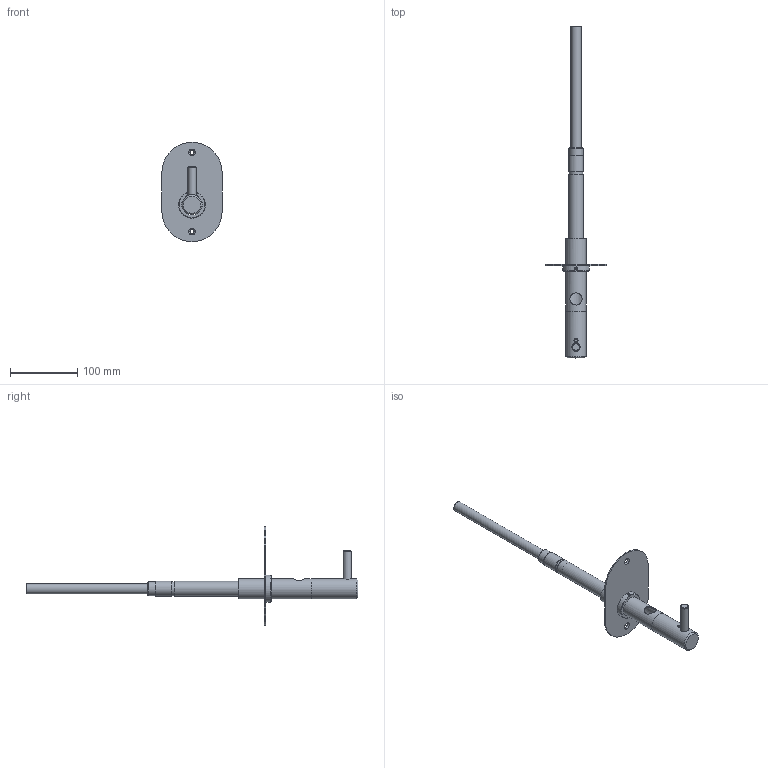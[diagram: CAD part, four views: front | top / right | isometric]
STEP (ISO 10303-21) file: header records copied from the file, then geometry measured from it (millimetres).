
FILE_DESCRIPTION(/* description */ ('Wall Kort (F760)'),/* implementation_level */ '2;1');
FILE_NAME(/* name */ 'Wk 00201 (F760).stp',/* time_stamp */ '2022-12-15T14:03:01+01:00',/* author */ ('thomas'),/* organization */ (''),/* preprocessor_version */ 'ST-DEVELOPER v19.2',/* originating_system */ 'Autodesk Inventor 2023',/* authorisation */ '');
FILE_SCHEMA (('AUTOMOTIVE_DESIGN { 1 0 10303 214 3 1 1 }'));
Length unit declared in the file: millimetre
Products named in the file (15): Wk 00201 (F760); Wf 00118; Wf 00109-1; Wf 00109; Wf 00110-1; Wf 00110; Wf 00102; Wf 00104; Wf 00103; Wf 00105; Pinolskrue M6x10mm; WL 00117; Wf 00117; WL 00107; Pinolskrue M4x5mm
Assembly tree (14 placements, depth 4):
  Wk 00201 (F760)
    Wf 00118
      Wf 00109-1
        Wf 00109
      Wf 00110-1
        Wf 00110
    Wf 00102
      Wf 00104
      Wf 00103
    Wf 00105
    Pinolskrue M6x10mm
    WL 00117
    Wf 00117
    WL 00107
    Pinolskrue M4x5mm
Bounding box: 90 x 495 x 148 mm (x, y, z)
Volume: 92665.5 mm3; surface area: 104206.3 mm2
Topology: 10 solids, 10 shells, 118 faces, 246 edges, 160 vertices
Faces by surface type: plane 59, cylinder 44, cone 13, torus 2
Full cylindrical faces by diameter (mm): 4 x1, 4.134 x1, 4.917 x2, 5.513 x1, 6 x1, 12 x3, 13 x1, 15 x2, 17 x1, 18.2 x1, 19 x2, 20 x2, 20.5 x1, 20.955 x1, 22 x2, 27 x2, 30 x2, 30.4 x1, 34.8 x1, 35 x1, 40 x1
Entity records: 4087 total; most frequent: CARTESIAN_POINT 851, DIRECTION 643, ORIENTED_EDGE 490, AXIS2_PLACEMENT_3D 272, EDGE_CURVE 245, VERTEX_POINT 160, EDGE_LOOP 155, CIRCLE 124
